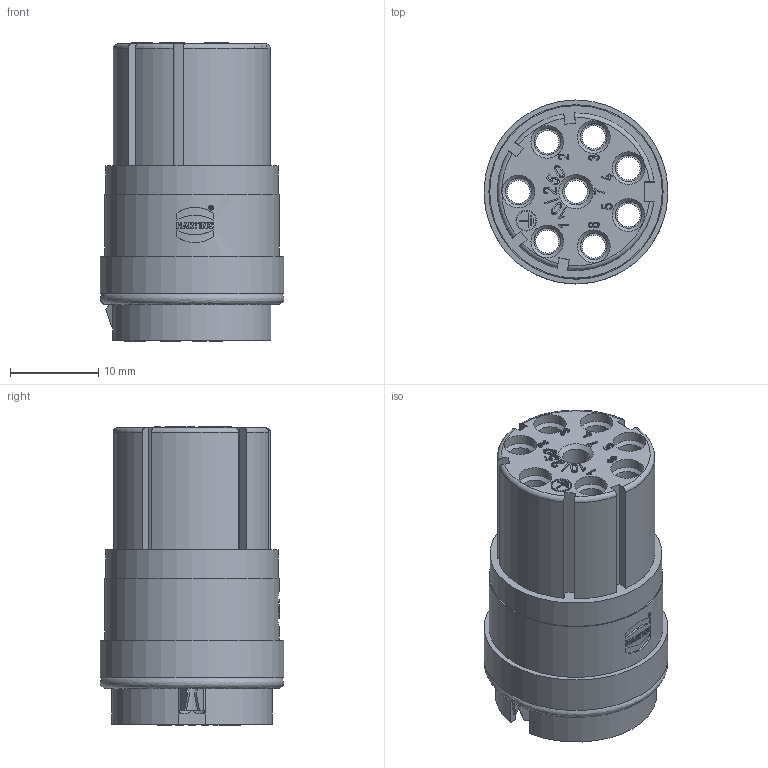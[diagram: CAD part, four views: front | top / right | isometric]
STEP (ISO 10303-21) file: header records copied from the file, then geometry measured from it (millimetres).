
FILE_DESCRIPTION(/* description */ (''),/* implementation_level */ '2;1');
FILE_NAME(/* name */ '100095227ugm000_c.stp',/* time_stamp */ '2022-03-11T09:47:09+01:00',/* author */ (''),/* organization */ (''),/* preprocessor_version */ 'ST-DEVELOPER v16.7',/* originating_system */ 'SIEMENS PLM Software NX 1911',/* authorisation */ '');
FILE_SCHEMA (('AUTOMOTIVE_DESIGN { 1 0 10303 214 3 1 1 1 }'));
Length unit declared in the file: millimetre
Products named in the file (1): 100095227ugm000_c
Bounding box: 20.8 x 20.8 x 33.8 mm (x, y, z)
Surface area: 5845 mm2 (no closed solid volume)
Topology: 0 solids, 1 shells, 564 faces, 1481 edges, 964 vertices
Faces by surface type: plane 359, cylinder 107, extrusion 62, cone 24, bspline 7, torus 5
Full cylindrical faces by diameter (mm): 0.455 x1, 0.538 x1, 2.18 x2, 2.34 x2, 2.6 x8, 3 x8, 3.6 x8, 3.7 x7, 4.2 x7, 19.5 x1, 19.7 x1, 20.8 x1
Entity records: 22127 total; most frequent: CARTESIAN_POINT 7684, ORIENTED_EDGE 2788, DIRECTION 2425, EDGE_CURVE 1394, VERTEX_POINT 952, VECTOR 837, AXIS2_PLACEMENT_3D 794, LINE 775
